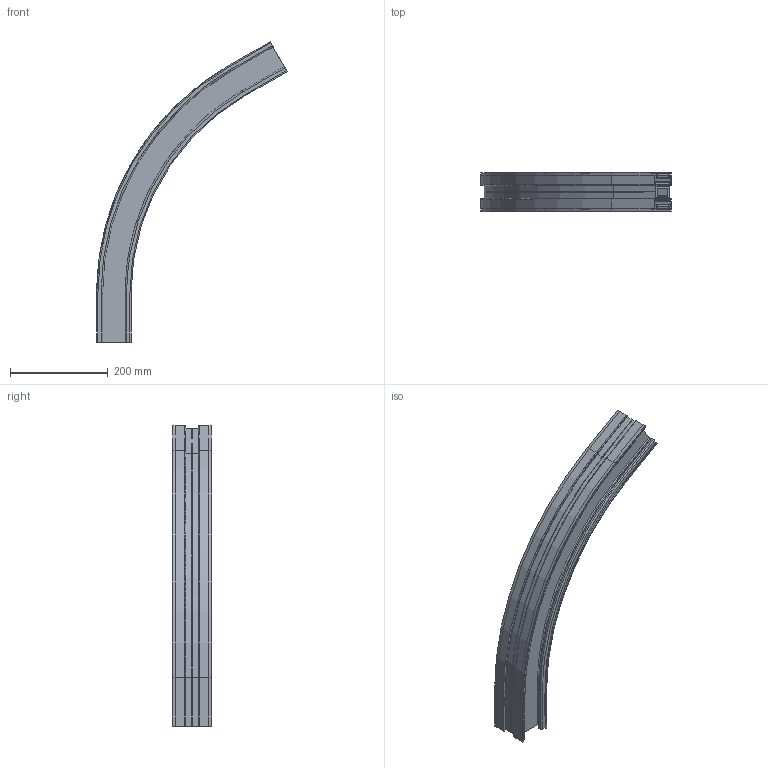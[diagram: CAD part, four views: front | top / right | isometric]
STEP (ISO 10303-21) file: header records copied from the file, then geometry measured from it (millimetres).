
FILE_DESCRIPTION (( 'STEP AP203' ), '1' );
FILE_NAME ('R1C500-60.STEP', '2008-11-24T14:39:54', ( 'faber' ), ( '' ), 'SwSTEP 2.0', 'SolidWorks 2008', '' );
FILE_SCHEMA (( 'CONFIG_CONTROL_DESIGN' ));
Length unit declared in the file: millimetre
Products named in the file (1): R1C500-60
Bounding box: 389.1 x 79.8 x 613.32 mm (x, y, z)
Surface area: 473253 mm2 (no closed solid volume)
Topology: 0 solids, 5 shells, 218 faces, 664 edges, 444 vertices
Faces by surface type: plane 118, cylinder 72, bspline 20, cone 8
Entity records: 9355 total; most frequent: CARTESIAN_POINT 3421, DIRECTION 1216, ORIENTED_EDGE 1164, EDGE_CURVE 664, VECTOR 474, LINE 474, VERTEX_POINT 444, AXIS2_PLACEMENT_3D 371
